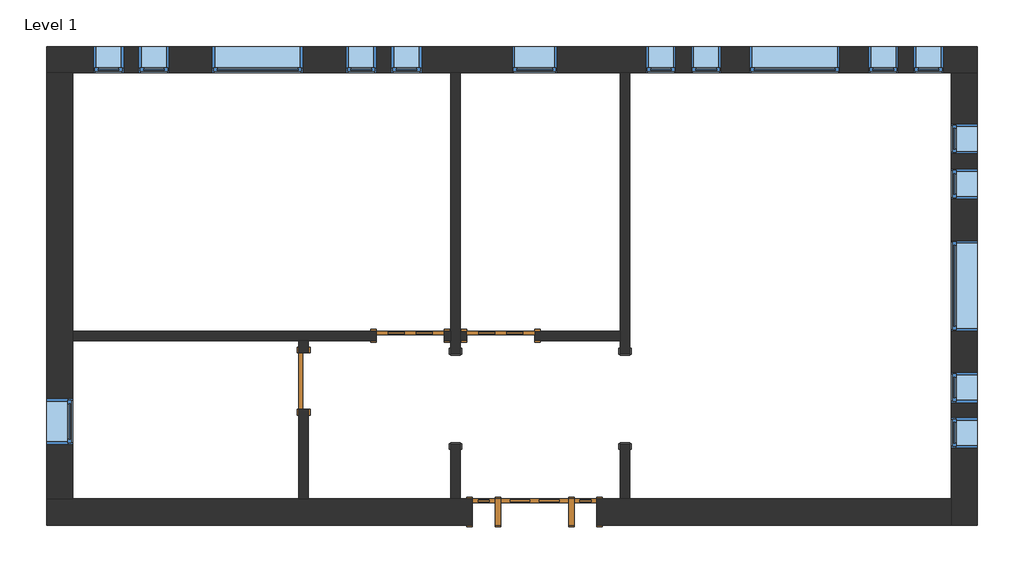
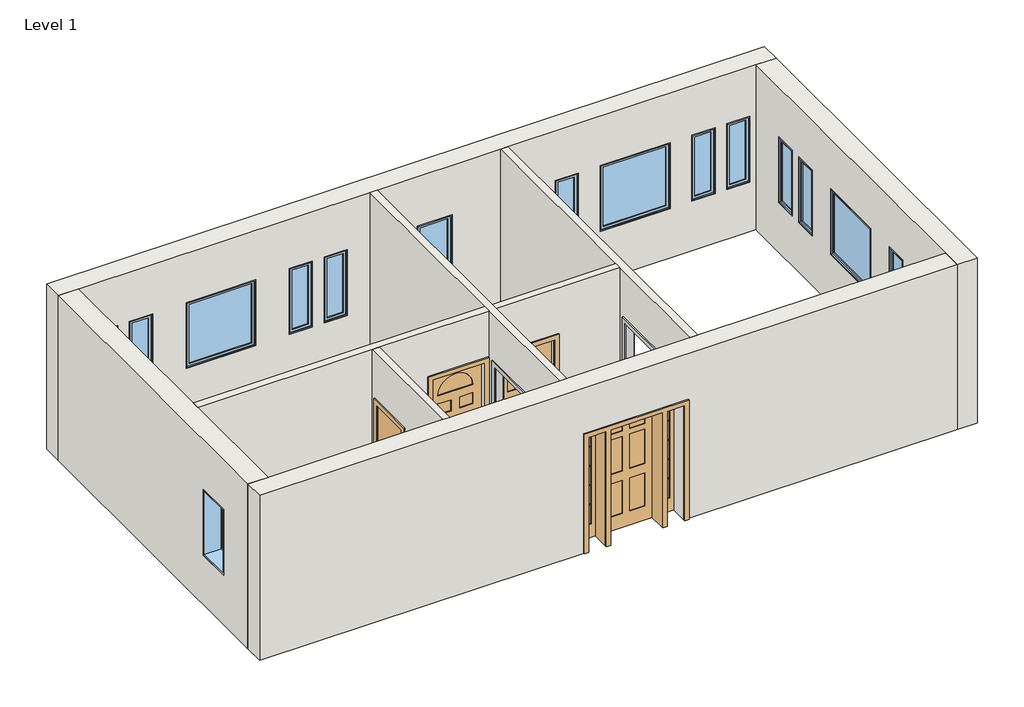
# One storey: 17 windows, 9 walls, 4 doors, 2 proxies.
"""IFC4 building model written with IfcOpenShell, lengths in millimetres."""

from ifc_helpers import new_model, si_unit, frame, origin, place, context, project, spatial, polyline, outline, extrude, faceted_brep, transform, mapped, element, save
from components import proxy_f44482cc, door_829da954, door_2e3b4da2, door_4d6c7550, door_dba5aa2e, window_da97879f, window_d61ef850, window_60baf983, window_6eb97611

model = new_model("IFC4")

# Units and contexts
model_context = context("Model", 3, world=origin())
ifc_project = project(units=[si_unit("LENGTHUNIT", "METRE", prefix="MILLI")], contexts=[model_context])

# Site, building, storey
site = spatial("IfcSite", under=ifc_project)
building = spatial("IfcBuilding", under=site)
storey = spatial("IfcBuildingStorey", under=building, Name="Level 1", Elevation=0.0)

# Proxies
placement = place(None, origin())
proxy_shape = proxy_f44482cc(model_context)
element("IfcBuildingElementProxy", 1, Name="Opening-Cased : 48\" x 84\"", ObjectType="Opening-Cased : 48\" x 84\"", at=placement, inside=storey, context=model_context, shape_type="MappedRepresentation", body=[
    mapped(proxy_shape, transform((-3773.4589563, 5882.4203434, 0.0), x_axis=(0.0, 1.0, 0.0), y_axis=(-1.0, 0.0, 0.0), z_axis=(0.0, 0.0, 1.0))),
])
element("IfcBuildingElementProxy", 2, Name="Opening-Cased : 48\" x 84\"", ObjectType="Opening-Cased : 48\" x 84\"", at=placement, inside=storey, context=model_context, shape_type="MappedRepresentation", body=[
    mapped(proxy_shape, transform((-6059.4589563, 5866.04303, 0.0), x_axis=(0.0, -1.0, 0.0), y_axis=(1.0, 0.0, 0.0), z_axis=(0.0, 0.0, 1.0))),
])

# Doors
door_shape = door_829da954(model_context)
element("IfcDoor", 3, ObjectType="Single-Decorative 2 : 36\" x 84\"", at=placement, inside=storey, context=model_context, shape_type="MappedRepresentation", body=[
    mapped(door_shape, transform((-5449.8589563, 6723.5441867, 0.0), x_axis=(-1.0, 0.0, 0.0), y_axis=(0.0, -1.0, 0.0), z_axis=(0.0, 0.0, 1.0))),
])
door_2_shape = door_2e3b4da2(model_context)
element("IfcDoor", 4, ObjectType="Single-Decorative 2 : 36\" x 84\"", at=placement, inside=storey, context=model_context, shape_type="MappedRepresentation", body=[
    mapped(door_2_shape, transform((-6669.0589563, 6723.5441867, 0.0), x_axis=(1.0, 0.0, 0.0), y_axis=(0.0, 1.0, 0.0), z_axis=(0.0, 0.0, 1.0))),
])
door_3_shape = door_4d6c7550(model_context)
element("IfcDoor", 5, ObjectType="Single-Flush : 30\" x 84\"", at=placement, inside=storey, context=model_context, shape_type="MappedRepresentation", body=[
    mapped(door_3_shape, transform((-8105.7464563, 6113.9441867, 0.0), x_axis=(0.0, 1.0, 0.0), y_axis=(-1.0, 0.0, 0.0), z_axis=(0.0, 0.0, 1.0))),
])
door_4_shape = door_dba5aa2e(model_context)
element("IfcDoor", 6, ObjectType="Single-Raised Panel with Sidelights : 36\" x 84\"", at=placement, inside=storey, context=model_context, shape_type="MappedRepresentation", body=[
    mapped(door_4_shape, transform((-4992.6589563, 4350.2316867, 0.0), x_axis=(-1.0, 0.0, 0.0), y_axis=(0.0, -1.0, 0.0), z_axis=(0.0, 0.0, 1.0))),
])

# Walls
element("IfcWall", 7, ObjectType="Exterior - Brick on Mtl. Stud", at=placement, inside=storey, context=model_context, shape_type="Brep", body=[
    faceted_brep([(-11569.6714563, 10270.0191867, 0.0), (-11217.2464563, 10270.0191867, 0.0), (-6122.9589563, 10270.0191867, 0.0), (-5995.9589563, 10270.0191867, 0.0), (-3836.9589563, 10270.0191867, 0.0), (-3709.9589563, 10270.0191867, 0.0), (622.3285437, 10270.0191867, 0.0), (974.7535437, 10270.0191867, 0.0), (974.7535437, 10270.0191867, 3048.0), (622.3285437, 10270.0191867, 3048.0), (-3709.9589563, 10270.0191867, 3048.0), (-3836.9589563, 10270.0191867, 3048.0), (-5995.9589563, 10270.0191867, 3048.0), (-6122.9589563, 10270.0191867, 3048.0), (-11217.2464563, 10270.0191867, 3048.0), (-11569.6714563, 10270.0191867, 3048.0), (-5297.4589563, 10270.0191867, 2133.6), (-4687.8589563, 10270.0191867, 2133.6), (-4687.8589563, 10270.0191867, 914.4), (-5297.4589563, 10270.0191867, 914.4), (-9336.0589563, 10270.0191867, 2133.6), (-8116.8589563, 10270.0191867, 2133.6), (-8116.8589563, 10270.0191867, 914.4), (-9336.0589563, 10270.0191867, 914.4), (-2097.0589563, 10270.0191867, 2133.6), (-877.8589563, 10270.0191867, 2133.6), (-877.8589563, 10270.0191867, 914.4), (-2097.0589563, 10270.0191867, 914.4), (-10936.2589563, 10270.0191867, 2133.6), (-10529.8589563, 10270.0191867, 2133.6), (-10529.8589563, 10270.0191867, 914.4), (-10936.2589563, 10270.0191867, 914.4), (-10326.6589563, 10270.0191867, 2133.6), (-9920.2589563, 10270.0191867, 2133.6), (-9920.2589563, 10270.0191867, 914.4), (-10326.6589563, 10270.0191867, 914.4), (-6516.6589563, 10270.0191867, 2133.6), (-6516.6589563, 10270.0191867, 914.4), (-6923.0589563, 10270.0191867, 914.4), (-6923.0589563, 10270.0191867, 2133.6), (-7126.2589563, 10270.0191867, 2133.6), (-7126.2589563, 10270.0191867, 914.4), (-7532.6589563, 10270.0191867, 914.4), (-7532.6589563, 10270.0191867, 2133.6), (-3494.0589563, 10270.0191867, 2133.6), (-3087.6589563, 10270.0191867, 2133.6), (-3087.6589563, 10270.0191867, 914.4), (-3494.0589563, 10270.0191867, 914.4), (-2884.4589563, 10270.0191867, 2133.6), (-2478.0589563, 10270.0191867, 2133.6), (-2478.0589563, 10270.0191867, 914.4), (-2884.4589563, 10270.0191867, 914.4), (519.1410437, 10270.0191867, 2133.6), (519.1410437, 10270.0191867, 914.4), (112.7410437, 10270.0191867, 914.4), (112.7410437, 10270.0191867, 2133.6), (-90.4589563, 10270.0191867, 2133.6), (-90.4589563, 10270.0191867, 914.4), (-496.8589563, 10270.0191867, 914.4), (-496.8589563, 10270.0191867, 2133.6), (-11569.6714563, 10622.4441867, 0.0), (-11569.6714563, 10622.4441867, 3048.0), (974.7535437, 10622.4441867, 3048.0), (974.7535437, 10622.4441867, 0.0), (-5297.4589563, 10622.4441867, 2133.6), (-5297.4589563, 10622.4441867, 914.4), (-4687.8589563, 10622.4441867, 914.4), (-4687.8589563, 10622.4441867, 2133.6), (-9336.0589563, 10622.4441867, 2133.6), (-9336.0589563, 10622.4441867, 914.4), (-8116.8589563, 10622.4441867, 914.4), (-8116.8589563, 10622.4441867, 2133.6), (-2097.0589563, 10622.4441867, 2133.6), (-2097.0589563, 10622.4441867, 914.4), (-877.8589563, 10622.4441867, 914.4), (-877.8589563, 10622.4441867, 2133.6), (-10936.2589563, 10622.4441867, 2133.6), (-10936.2589563, 10622.4441867, 914.4), (-10529.8589563, 10622.4441867, 914.4), (-10529.8589563, 10622.4441867, 2133.6), (-10326.6589563, 10622.4441867, 2133.6), (-10326.6589563, 10622.4441867, 914.4), (-9920.2589563, 10622.4441867, 914.4), (-9920.2589563, 10622.4441867, 2133.6), (-6516.6589563, 10622.4441867, 2133.6), (-6923.0589563, 10622.4441867, 2133.6), (-6923.0589563, 10622.4441867, 914.4), (-6516.6589563, 10622.4441867, 914.4), (-7126.2589563, 10622.4441867, 2133.6), (-7532.6589563, 10622.4441867, 2133.6), (-7532.6589563, 10622.4441867, 914.4), (-7126.2589563, 10622.4441867, 914.4), (-3494.0589563, 10622.4441867, 2133.6), (-3494.0589563, 10622.4441867, 914.4), (-3087.6589563, 10622.4441867, 914.4), (-3087.6589563, 10622.4441867, 2133.6), (-2884.4589563, 10622.4441867, 2133.6), (-2884.4589563, 10622.4441867, 914.4), (-2478.0589563, 10622.4441867, 914.4), (-2478.0589563, 10622.4441867, 2133.6), (519.1410437, 10622.4441867, 2133.6), (112.7410437, 10622.4441867, 2133.6), (112.7410437, 10622.4441867, 914.4), (519.1410437, 10622.4441867, 914.4), (-90.4589563, 10622.4441867, 2133.6), (-496.8589563, 10622.4441867, 2133.6), (-496.8589563, 10622.4441867, 914.4), (-90.4589563, 10622.4441867, 914.4)], [[[0, 1, 2, 3, 4, 5, 6, 7, 8, 9, 10, 11, 12, 13, 14, 15], [16, 17, 18, 19], [20, 21, 22, 23], [24, 25, 26, 27], [28, 29, 30, 31], [32, 33, 34, 35], [36, 37, 38, 39], [40, 41, 42, 43], [44, 45, 46, 47], [48, 49, 50, 51], [52, 53, 54, 55], [56, 57, 58, 59]], [[60, 61, 62, 63], [64, 65, 66, 67], [68, 69, 70, 71], [72, 73, 74, 75], [76, 77, 78, 79], [80, 81, 82, 83], [84, 85, 86, 87], [88, 89, 90, 91], [92, 93, 94, 95], [96, 97, 98, 99], [100, 101, 102, 103], [104, 105, 106, 107]], [[7, 6, 5, 4, 3, 2, 1, 0, 60, 63]], [[15, 14, 13, 12, 11, 10, 9, 8, 62, 61]], [[8, 7, 63, 62]], [[0, 15, 61, 60]], [[65, 64, 16, 19]], [[66, 65, 19, 18]], [[67, 66, 18, 17]], [[64, 67, 17, 16]], [[69, 68, 20, 23]], [[70, 69, 23, 22]], [[71, 70, 22, 21]], [[68, 71, 21, 20]], [[73, 72, 24, 27]], [[74, 73, 27, 26]], [[75, 74, 26, 25]], [[72, 75, 25, 24]], [[77, 76, 28, 31]], [[78, 77, 31, 30]], [[79, 78, 30, 29]], [[76, 79, 29, 28]], [[81, 80, 32, 35]], [[82, 81, 35, 34]], [[83, 82, 34, 33]], [[80, 83, 33, 32]], [[37, 36, 84, 87]], [[38, 37, 87, 86]], [[39, 38, 86, 85]], [[36, 39, 85, 84]], [[41, 40, 88, 91]], [[42, 41, 91, 90]], [[43, 42, 90, 89]], [[40, 43, 89, 88]], [[93, 92, 44, 47]], [[94, 93, 47, 46]], [[95, 94, 46, 45]], [[92, 95, 45, 44]], [[97, 96, 48, 51]], [[98, 97, 51, 50]], [[99, 98, 50, 49]], [[96, 99, 49, 48]], [[53, 52, 100, 103]], [[54, 53, 103, 102]], [[55, 54, 102, 101]], [[52, 55, 101, 100]], [[57, 56, 104, 107]], [[58, 57, 107, 106]], [[59, 58, 106, 105]], [[56, 59, 105, 104]]]),
])
element("IfcWall", 8, ObjectType="Exterior - Brick on Mtl. Stud", at=placement, inside=storey, context=model_context, shape_type="Brep", body=[
    faceted_brep([(622.3285437, 10270.0191867, 0.0), (622.3285437, 4526.4441867, 0.0), (622.3285437, 4174.0191867, 0.0), (622.3285437, 4174.0191867, 3048.0), (622.3285437, 4526.4441867, 3048.0), (622.3285437, 10270.0191867, 3048.0), (622.3285437, 8007.8316867, 2133.6), (622.3285437, 6788.6316867, 2133.6), (622.3285437, 6788.6316867, 914.4), (622.3285437, 8007.8316867, 914.4), (622.3285437, 9582.6316867, 2133.6), (622.3285437, 9176.2316867, 2133.6), (622.3285437, 9176.2316867, 914.4), (622.3285437, 9582.6316867, 914.4), (622.3285437, 8973.0316867, 2133.6), (622.3285437, 8566.6316867, 2133.6), (622.3285437, 8566.6316867, 914.4), (622.3285437, 8973.0316867, 914.4), (622.3285437, 5213.8316867, 2133.6), (622.3285437, 5213.8316867, 914.4), (622.3285437, 5620.2316867, 914.4), (622.3285437, 5620.2316867, 2133.6), (622.3285437, 5823.4316867, 2133.6), (622.3285437, 5823.4316867, 914.4), (622.3285437, 6229.8316867, 914.4), (622.3285437, 6229.8316867, 2133.6), (974.7535437, 10270.0191867, 0.0), (974.7535437, 10270.0191867, 3048.0), (974.7535437, 4174.0191867, 3048.0), (974.7535437, 4174.0191867, 0.0), (974.7535437, 8007.8316867, 2133.6), (974.7535437, 8007.8316867, 914.4), (974.7535437, 6788.6316867, 914.4), (974.7535437, 6788.6316867, 2133.6), (974.7535437, 9582.6316867, 2133.6), (974.7535437, 9582.6316867, 914.4), (974.7535437, 9176.2316867, 914.4), (974.7535437, 9176.2316867, 2133.6), (974.7535437, 8973.0316867, 2133.6), (974.7535437, 8973.0316867, 914.4), (974.7535437, 8566.6316867, 914.4), (974.7535437, 8566.6316867, 2133.6), (974.7535437, 5213.8316867, 2133.6), (974.7535437, 5620.2316867, 2133.6), (974.7535437, 5620.2316867, 914.4), (974.7535437, 5213.8316867, 914.4), (974.7535437, 5823.4316867, 2133.6), (974.7535437, 6229.8316867, 2133.6), (974.7535437, 6229.8316867, 914.4), (974.7535437, 5823.4316867, 914.4)], [[[0, 1, 2, 3, 4, 5], [6, 7, 8, 9], [10, 11, 12, 13], [14, 15, 16, 17], [18, 19, 20, 21], [22, 23, 24, 25]], [[26, 27, 28, 29], [30, 31, 32, 33], [34, 35, 36, 37], [38, 39, 40, 41], [42, 43, 44, 45], [46, 47, 48, 49]], [[2, 1, 0, 26, 29]], [[5, 4, 3, 28, 27]], [[3, 2, 29, 28]], [[0, 5, 27, 26]], [[31, 30, 6, 9]], [[32, 31, 9, 8]], [[33, 32, 8, 7]], [[30, 33, 7, 6]], [[35, 34, 10, 13]], [[36, 35, 13, 12]], [[37, 36, 12, 11]], [[34, 37, 11, 10]], [[39, 38, 14, 17]], [[40, 39, 17, 16]], [[41, 40, 16, 15]], [[38, 41, 15, 14]], [[19, 18, 42, 45]], [[20, 19, 45, 44]], [[21, 20, 44, 43]], [[18, 21, 43, 42]], [[23, 22, 46, 49]], [[24, 23, 49, 48]], [[25, 24, 48, 47]], [[22, 25, 47, 46]]]),
])
element("IfcWall", 9, ObjectType="Exterior - Brick on Mtl. Stud", at=placement, inside=storey, context=model_context, shape_type="Brep", body=[
    faceted_brep([(-5830.8589563, 4526.4441867, 2133.6), (-5830.8589563, 4526.4441867, 0.0), (-5995.9589563, 4526.4441867, 0.0), (-6122.9589563, 4526.4441867, 0.0), (-8042.2464563, 4526.4441867, 0.0), (-8169.2464563, 4526.4441867, 0.0), (-11217.2464563, 4526.4441867, 0.0), (-11569.6714563, 4526.4441867, 0.0), (-11569.6714563, 4526.4441867, 3048.0), (-11217.2464563, 4526.4441867, 3048.0), (-8169.2464563, 4526.4441867, 3048.0), (-8042.2464563, 4526.4441867, 3048.0), (-6122.9589563, 4526.4441867, 3048.0), (-5995.9589563, 4526.4441867, 3048.0), (-3836.9589563, 4526.4441867, 3048.0), (-3709.9589563, 4526.4441867, 3048.0), (622.3285437, 4526.4441867, 3048.0), (622.3285437, 4526.4441867, 0.0), (-3709.9589563, 4526.4441867, 0.0), (-3836.9589563, 4526.4441867, 0.0), (-4154.4589563, 4526.4441867, 0.0), (-4154.4589563, 4526.4441867, 2133.6), (-11569.6714563, 4174.0191867, 0.0), (-5830.8589563, 4174.0191867, 0.0), (-5830.8589563, 4174.0191867, 2133.6), (-4154.4589563, 4174.0191867, 2133.6), (-4154.4589563, 4174.0191867, 0.0), (622.3285437, 4174.0191867, 0.0), (622.3285437, 4174.0191867, 3048.0), (-11569.6714563, 4174.0191867, 3048.0)], [[[0, 1, 2, 3, 4, 5, 6, 7, 8, 9, 10, 11, 12, 13, 14, 15, 16, 17, 18, 19, 20, 21]], [[22, 23, 24, 25, 26, 27, 28, 29]], [[7, 6, 5, 4, 3, 2, 1, 23, 22]], [[20, 19, 18, 17, 27, 26]], [[16, 15, 14, 13, 12, 11, 10, 9, 8, 29, 28]], [[8, 7, 22, 29]], [[17, 16, 28, 27]], [[24, 23, 1, 0]], [[25, 24, 0, 21]], [[26, 25, 21, 20]]]),
])
element("IfcWall", 10, ObjectType="Exterior - Brick on Mtl. Stud", at=placement, inside=storey, context=model_context, shape_type="Brep", body=[
    faceted_brep([(-11217.2464563, 4526.4441867, 0.0), (-11217.2464563, 6660.0441867, 0.0), (-11217.2464563, 6787.0441867, 0.0), (-11217.2464563, 10270.0191867, 0.0), (-11217.2464563, 10270.0191867, 3048.0), (-11217.2464563, 6787.0441867, 3048.0), (-11217.2464563, 6660.0441867, 3048.0), (-11217.2464563, 4526.4441867, 3048.0), (-11217.2464563, 5264.6316867, 2133.6), (-11217.2464563, 5874.2316867, 2133.6), (-11217.2464563, 5874.2316867, 914.4), (-11217.2464563, 5264.6316867, 914.4), (-11569.6714563, 4526.4441867, 0.0), (-11569.6714563, 4526.4441867, 3048.0), (-11569.6714563, 10270.0191867, 3048.0), (-11569.6714563, 10270.0191867, 0.0), (-11569.6714563, 5264.6316867, 2133.6), (-11569.6714563, 5264.6316867, 914.4), (-11569.6714563, 5874.2316867, 914.4), (-11569.6714563, 5874.2316867, 2133.6)], [[[0, 1, 2, 3, 4, 5, 6, 7], [8, 9, 10, 11]], [[12, 13, 14, 15], [16, 17, 18, 19]], [[3, 2, 1, 0, 12, 15]], [[7, 6, 5, 4, 14, 13]], [[0, 7, 13, 12]], [[4, 3, 15, 14]], [[17, 16, 8, 11]], [[18, 17, 11, 10]], [[19, 18, 10, 9]], [[16, 19, 9, 8]]]),
])
element("IfcWall", 11, ObjectType="Interior - 5\" Partition (2-hr)", at=placement, inside=storey, context=model_context, shape_type="Brep", body=[
    faceted_brep([(-3836.9589563, 10270.0191867, 0.0), (-3836.9589563, 6787.0441867, 0.0), (-3836.9589563, 6660.0441867, 0.0), (-3836.9589563, 6483.8316867, 0.0), (-3836.9589563, 6483.8316867, 2133.6), (-3836.9589563, 5264.6316867, 2133.6), (-3836.9589563, 5264.6316867, 0.0), (-3836.9589563, 4526.4441867, 0.0), (-3836.9589563, 4526.4441867, 3048.0), (-3836.9589563, 6660.0441867, 3048.0), (-3836.9589563, 6787.0441867, 3048.0), (-3836.9589563, 10270.0191867, 3048.0), (-3709.9589563, 6483.8316867, 2133.6), (-3709.9589563, 6483.8316867, 0.0), (-3709.9589563, 10270.0191867, 0.0), (-3709.9589563, 10270.0191867, 3048.0), (-3709.9589563, 4526.4441867, 3048.0), (-3709.9589563, 4526.4441867, 0.0), (-3709.9589563, 5264.6316867, 0.0), (-3709.9589563, 5264.6316867, 2133.6)], [[[0, 1, 2, 3, 4, 5, 6, 7, 8, 9, 10, 11]], [[12, 13, 14, 15, 16, 17, 18, 19]], [[14, 13, 3, 2, 1, 0]], [[18, 17, 7, 6]], [[11, 10, 9, 8, 16, 15]], [[0, 11, 15, 14]], [[8, 7, 17, 16]], [[6, 5, 19, 18]], [[4, 3, 13, 12]], [[5, 4, 12, 19]]]),
])
element("IfcWall", 12, ObjectType="Interior - 5\" Partition (2-hr)", at=placement, inside=storey, context=model_context, shape_type="Brep", body=[
    faceted_brep([(-6122.9589563, 5264.6316867, 2133.6), (-6122.9589563, 5264.6316867, 0.0), (-6122.9589563, 4526.4441867, 0.0), (-6122.9589563, 4526.4441867, 3048.0), (-6122.9589563, 6660.0441867, 3048.0), (-6122.9589563, 6787.0441867, 3048.0), (-6122.9589563, 10270.0191867, 3048.0), (-6122.9589563, 10270.0191867, 0.0), (-6122.9589563, 6787.0441867, 0.0), (-6122.9589563, 6660.0441867, 0.0), (-6122.9589563, 6483.8316867, 0.0), (-6122.9589563, 6483.8316867, 2133.6), (-5995.9589563, 4526.4441867, 0.0), (-5995.9589563, 5264.6316867, 0.0), (-5995.9589563, 5264.6316867, 2133.6), (-5995.9589563, 6483.8316867, 2133.6), (-5995.9589563, 6483.8316867, 0.0), (-5995.9589563, 6660.0441867, 0.0), (-5995.9589563, 6787.0441867, 0.0), (-5995.9589563, 10270.0191867, 0.0), (-5995.9589563, 10270.0191867, 3048.0), (-5995.9589563, 6787.0441867, 3048.0), (-5995.9589563, 6660.0441867, 3048.0), (-5995.9589563, 4526.4441867, 3048.0)], [[[0, 1, 2, 3, 4, 5, 6, 7, 8, 9, 10, 11]], [[12, 13, 14, 15, 16, 17, 18, 19, 20, 21, 22, 23]], [[2, 1, 13, 12]], [[10, 9, 8, 7, 19, 18, 17, 16]], [[6, 5, 4, 3, 23, 22, 21, 20]], [[7, 6, 20, 19]], [[3, 2, 12, 23]], [[16, 15, 11, 10]], [[14, 13, 1, 0]], [[15, 14, 0, 11]]]),
])
element("IfcWall", 13, ObjectType="Interior - 5\" Partition (2-hr)", at=placement, inside=storey, context=model_context, shape_type="Brep", body=[
    faceted_brep([(-6211.8589563, 6660.0441867, 2133.6), (-6211.8589563, 6660.0441867, 0.0), (-6122.9589563, 6660.0441867, 0.0), (-6122.9589563, 6660.0441867, 3048.0), (-8042.2464563, 6660.0441867, 3048.0), (-8169.2464563, 6660.0441867, 3048.0), (-11217.2464563, 6660.0441867, 3048.0), (-11217.2464563, 6660.0441867, 0.0), (-8169.2464563, 6660.0441867, 0.0), (-8042.2464563, 6660.0441867, 0.0), (-7126.2589563, 6660.0441867, 0.0), (-7126.2589563, 6660.0441867, 2133.6), (-6122.9589563, 6787.0441867, 0.0), (-6211.8589563, 6787.0441867, 0.0), (-6211.8589563, 6787.0441867, 2133.6), (-7126.2589563, 6787.0441867, 2133.6), (-7126.2589563, 6787.0441867, 0.0), (-11217.2464563, 6787.0441867, 0.0), (-11217.2464563, 6787.0441867, 3048.0), (-6122.9589563, 6787.0441867, 3048.0)], [[[0, 1, 2, 3, 4, 5, 6, 7, 8, 9, 10, 11]], [[12, 13, 14, 15, 16, 17, 18, 19]], [[2, 1, 13, 12]], [[10, 9, 8, 7, 17, 16]], [[6, 5, 4, 3, 19, 18]], [[7, 6, 18, 17]], [[3, 2, 12, 19]], [[14, 13, 1, 0]], [[15, 14, 0, 11]], [[16, 15, 11, 10]]]),
])
element("IfcWall", 14, ObjectType="Interior - 5\" Partition (2-hr)", at=placement, inside=storey, context=model_context, shape_type="SweptSolid", body=[
    extrude(outline(polyline([(6660.0441867, 0.0), (6494.9441867, 0.0), (6494.9441867, 2133.6), (5732.9441867, 2133.6), (5732.9441867, 0.0), (4526.4441867, 0.0), (4526.4441867, 3048.0), (6660.0441867, 3048.0), (6660.0441867, 0.0)])), frame((-8169.2464563, 0.0, 0.0), z_axis=(1.0, 0.0, 0.0), x_axis=(0.0, 1.0, 0.0)), (0.0, 0.0, 1.0), 127.0),
])
element("IfcWall", 15, ObjectType="Interior - 5\" Partition (2-hr)", at=placement, inside=storey, context=model_context, shape_type="SweptSolid", body=[
    extrude(outline(polyline([(0.0, -5995.9589563), (0.0, -5907.0589563), (2133.6, -5907.0589563), (2133.6, -4992.6589563), (0.0, -4992.6589563), (0.0, -3836.9589563), (3048.0, -3836.9589563), (3048.0, -5995.9589563), (0.0, -5995.9589563)])), frame((0.0, 6660.0441867, 0.0), z_axis=(0.0, 1.0, 0.0), x_axis=(0.0, 0.0, 1.0)), (0.0, 0.0, 1.0), 127.0),
])

# Windows
window_shape = window_da97879f(model_context)
element("IfcWindow", 16, ObjectType="Fixed : 16\" x 48\"", at=placement, inside=storey, context=model_context, shape_type="MappedRepresentation", body=[
    mapped(window_shape, transform((-10771.1589563, 10446.2316867, 0.0), x_axis=(-1.0, 0.0, 0.0), y_axis=(0.0, -1.0, 0.0), z_axis=(0.0, 0.0, 1.0))),
])
element("IfcWindow", 17, ObjectType="Fixed : 16\" x 48\"", at=placement, inside=storey, context=model_context, shape_type="MappedRepresentation", body=[
    mapped(window_shape, transform((-10161.5589563, 10446.2316867, 0.0), x_axis=(-1.0, 0.0, 0.0), y_axis=(0.0, -1.0, 0.0), z_axis=(0.0, 0.0, 1.0))),
])
element("IfcWindow", 18, ObjectType="Fixed : 16\" x 48\"", at=placement, inside=storey, context=model_context, shape_type="MappedRepresentation", body=[
    mapped(window_shape, transform((-3328.9589563, 10446.2316867, 0.0), x_axis=(-1.0, 0.0, 0.0), y_axis=(0.0, -1.0, 0.0), z_axis=(0.0, 0.0, 1.0))),
])
element("IfcWindow", 19, ObjectType="Fixed : 16\" x 48\"", at=placement, inside=storey, context=model_context, shape_type="MappedRepresentation", body=[
    mapped(window_shape, transform((-2719.3589563, 10446.2316867, 0.0), x_axis=(-1.0, 0.0, 0.0), y_axis=(0.0, -1.0, 0.0), z_axis=(0.0, 0.0, 1.0))),
])
element("IfcWindow", 20, ObjectType="Fixed : 16\" x 48\"", at=placement, inside=storey, context=model_context, shape_type="MappedRepresentation", body=[
    mapped(window_shape, transform((798.5410437, 9417.5316867, 0.0), x_axis=(0.0, 1.0, 0.0), y_axis=(-1.0, 0.0, 0.0), z_axis=(0.0, 0.0, 1.0))),
])
element("IfcWindow", 21, ObjectType="Fixed : 16\" x 48\"", at=placement, inside=storey, context=model_context, shape_type="MappedRepresentation", body=[
    mapped(window_shape, transform((798.5410437, 8807.9316867, 0.0), x_axis=(0.0, 1.0, 0.0), y_axis=(-1.0, 0.0, 0.0), z_axis=(0.0, 0.0, 1.0))),
])
window_2_shape = window_d61ef850(model_context)
element("IfcWindow", 22, ObjectType="Fixed : 16\" x 48\"", at=placement, inside=storey, context=model_context, shape_type="MappedRepresentation", body=[
    mapped(window_2_shape, transform((-6681.7589563, 10446.2316867, 0.0), x_axis=(1.0, 0.0, 0.0), y_axis=(0.0, 1.0, 0.0), z_axis=(0.0, 0.0, 1.0))),
])
element("IfcWindow", 23, ObjectType="Fixed : 16\" x 48\"", at=placement, inside=storey, context=model_context, shape_type="MappedRepresentation", body=[
    mapped(window_2_shape, transform((-7291.3589563, 10446.2316867, 0.0), x_axis=(1.0, 0.0, 0.0), y_axis=(0.0, 1.0, 0.0), z_axis=(0.0, 0.0, 1.0))),
])
element("IfcWindow", 24, ObjectType="Fixed : 16\" x 48\"", at=placement, inside=storey, context=model_context, shape_type="MappedRepresentation", body=[
    mapped(window_2_shape, transform((354.0410437, 10446.2316867, 0.0), x_axis=(1.0, 0.0, 0.0), y_axis=(0.0, 1.0, 0.0), z_axis=(0.0, 0.0, 1.0))),
])
element("IfcWindow", 25, ObjectType="Fixed : 16\" x 48\"", at=placement, inside=storey, context=model_context, shape_type="MappedRepresentation", body=[
    mapped(window_2_shape, transform((-255.5589563, 10446.2316867, 0.0), x_axis=(1.0, 0.0, 0.0), y_axis=(0.0, 1.0, 0.0), z_axis=(0.0, 0.0, 1.0))),
])
element("IfcWindow", 26, ObjectType="Fixed : 16\" x 48\"", at=placement, inside=storey, context=model_context, shape_type="MappedRepresentation", body=[
    mapped(window_2_shape, transform((798.5410437, 5378.9316867, 0.0), x_axis=(0.0, -1.0, 0.0), y_axis=(1.0, 0.0, 0.0), z_axis=(0.0, 0.0, 1.0))),
])
element("IfcWindow", 27, ObjectType="Fixed : 16\" x 48\"", at=placement, inside=storey, context=model_context, shape_type="MappedRepresentation", body=[
    mapped(window_2_shape, transform((798.5410437, 5988.5316867, 0.0), x_axis=(0.0, -1.0, 0.0), y_axis=(1.0, 0.0, 0.0), z_axis=(0.0, 0.0, 1.0))),
])
window_3_shape = window_60baf983(model_context)
element("IfcWindow", 28, ObjectType="Fixed : 24\" x 48\"", at=placement, inside=storey, context=model_context, shape_type="MappedRepresentation", body=[
    mapped(window_3_shape, transform((-5030.7589563, 10446.2316867, 0.0), x_axis=(-1.0, 0.0, 0.0), y_axis=(0.0, -1.0, 0.0), z_axis=(0.0, 0.0, 1.0))),
])
element("IfcWindow", 29, ObjectType="Fixed : 24\" x 48\"", at=placement, inside=storey, context=model_context, shape_type="MappedRepresentation", body=[
    mapped(window_3_shape, transform((-11393.4589563, 5531.3316867, 0.0), x_axis=(0.0, -1.0, 0.0), y_axis=(1.0, 0.0, 0.0), z_axis=(0.0, 0.0, 1.0))),
])
window_4_shape = window_6eb97611(model_context)
element("IfcWindow", 30, ObjectType="Fixed : 48\" x 48\"", at=placement, inside=storey, context=model_context, shape_type="MappedRepresentation", body=[
    mapped(window_4_shape, transform((-8764.5589563, 10446.2316867, 0.0), x_axis=(-1.0, 0.0, 0.0), y_axis=(0.0, -1.0, 0.0), z_axis=(0.0, 0.0, 1.0))),
])
element("IfcWindow", 31, ObjectType="Fixed : 48\" x 48\"", at=placement, inside=storey, context=model_context, shape_type="MappedRepresentation", body=[
    mapped(window_4_shape, transform((-1525.5589563, 10446.2316867, 0.0), x_axis=(-1.0, 0.0, 0.0), y_axis=(0.0, -1.0, 0.0), z_axis=(0.0, 0.0, 1.0))),
])
element("IfcWindow", 32, ObjectType="Fixed : 48\" x 48\"", at=placement, inside=storey, context=model_context, shape_type="MappedRepresentation", body=[
    mapped(window_4_shape, transform((798.5410437, 7436.3316867, 0.0), x_axis=(0.0, 1.0, 0.0), y_axis=(-1.0, 0.0, 0.0), z_axis=(0.0, 0.0, 1.0))),
])

save(model, "model.ifc")
